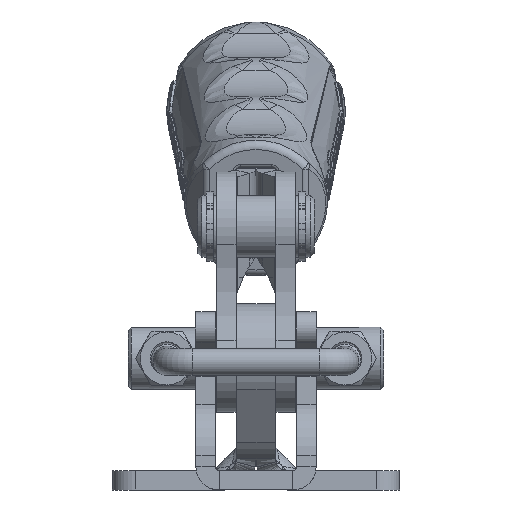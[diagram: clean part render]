
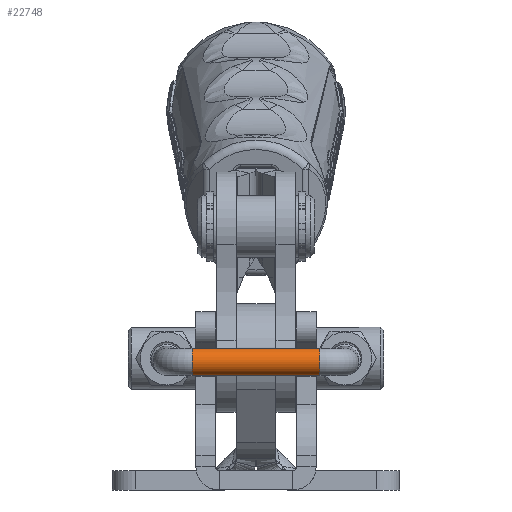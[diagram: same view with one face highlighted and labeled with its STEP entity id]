
A CAD part, left-side view. The second image highlights one B-rep face of the part: STEP entity #22748.
In plain terms, the highlighted cylindrical face has radius 1.75 mm (diameter 3.5 mm), a full revolution.
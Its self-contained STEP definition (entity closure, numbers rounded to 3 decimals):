
#16615=FACE_BOUND('',#27575,.T.);
#16616=FACE_BOUND('',#27576,.T.);
#18724=CYLINDRICAL_SURFACE('',#51823,1.75);
#20618=CIRCLE('',#51820,1.75);
#20619=CIRCLE('',#51822,1.75);
#22748=ADVANCED_FACE('',(#16615,#16616),#18724,.T.);
#27575=EDGE_LOOP('',(#37313));
#27576=EDGE_LOOP('',(#37314));
#37313=ORIENTED_EDGE('',*,*,#45473,.T.);
#37314=ORIENTED_EDGE('',*,*,#45472,.F.);
#40537=VERTEX_POINT('',#96020);
#40538=VERTEX_POINT('',#96023);
#45472=EDGE_CURVE('',#40537,#40537,#20618,.T.);
#45473=EDGE_CURVE('',#40538,#40538,#20619,.T.);
#51820=AXIS2_PLACEMENT_3D('',#96019,#60028,#60029);
#51822=AXIS2_PLACEMENT_3D('',#96022,#60032,#60033);
#51823=AXIS2_PLACEMENT_3D('',#96024,#60034,#60035);
#60028=DIRECTION('',(0.,-1.,0.));
#60029=DIRECTION('',(-0.006,0.,1.));
#60032=DIRECTION('',(0.,-1.,0.));
#60033=DIRECTION('',(-0.006,0.,1.));
#60034=DIRECTION('',(0.,-1.,0.));
#60035=DIRECTION('',(0.006,0.,-1.));
#96019=CARTESIAN_POINT('',(1311.179,128.868,115.999));
#96020=CARTESIAN_POINT('',(1311.167,128.868,117.749));
#96022=CARTESIAN_POINT('',(1311.179,145.368,115.999));
#96023=CARTESIAN_POINT('',(1311.167,145.368,117.749));
#96024=CARTESIAN_POINT('',(1311.179,145.368,115.999));
